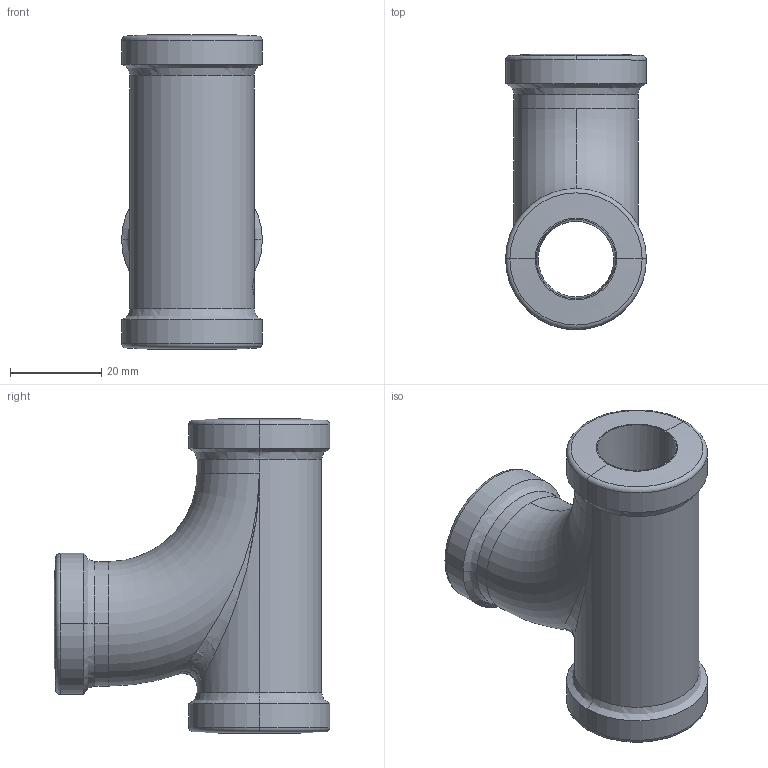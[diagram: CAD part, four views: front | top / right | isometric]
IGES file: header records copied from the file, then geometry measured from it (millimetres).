
Global section: file name: No Iges File Name specified; native system: AutoDesk Inventor R12.0; preprocessor: AutoDesk Inventor Iges Exporter R12.0; date: 20090917.102407; units: millimetre
Bounding box: 30.9 x 60.45 x 69 mm (x, y, z)
Volume: 30875.8 mm3; surface area: 16530 mm2
Topology: 1 solids, 1 shells, 73 faces, 187 edges, 115 vertices
Faces by surface type: bspline 23, cylinder 14, plane 13, revolution 9, torus 8, cone 6
